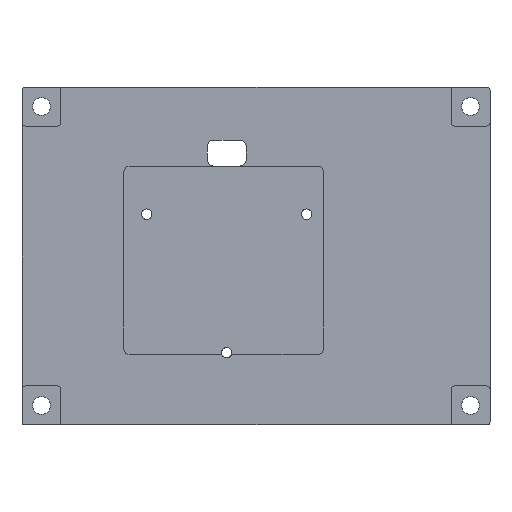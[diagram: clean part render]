
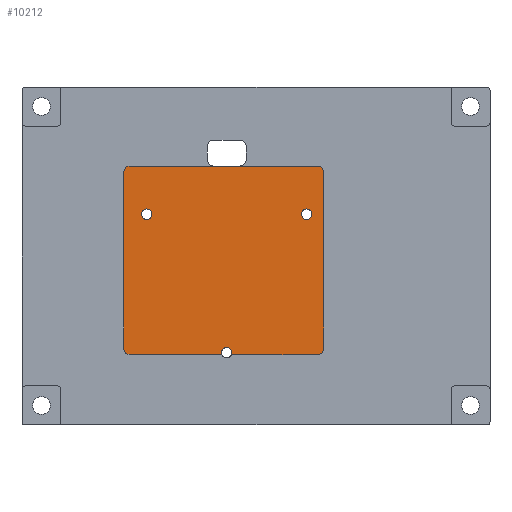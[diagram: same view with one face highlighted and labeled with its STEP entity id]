
A CAD part, front view. The second image highlights one B-rep face of the part: STEP entity #10212.
In plain terms, the highlighted planar face has unit normal (0, -1, 0).
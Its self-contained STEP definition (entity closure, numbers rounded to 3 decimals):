
#133 = VERTEX_POINT ( 'NONE', #232 ) ;
#141 = DIRECTION ( 'NONE',  ( 0., 0., -1. ) ) ;
#144 = VERTEX_POINT ( 'NONE', #2172 ) ;
#219 = AXIS2_PLACEMENT_3D ( 'NONE', #7039, #8697, #1610 ) ;
#232 = CARTESIAN_POINT ( 'NONE',  ( 19.187, -3.78, 33.237 ) ) ;
#256 = CARTESIAN_POINT ( 'NONE',  ( 32.226, -3.78, 10.837 ) ) ;
#543 = CARTESIAN_POINT ( 'NONE',  ( 15.64, -3.78, 38.837 ) ) ;
#563 = ORIENTED_EDGE ( 'NONE', *, *, #10979, .F. ) ;
#806 = CARTESIAN_POINT ( 'NONE',  ( 46.44, -3.78, 38.837 ) ) ;
#834 = EDGE_CURVE ( 'NONE', #7968, #6526, #9763, .T. ) ;
#847 = ORIENTED_EDGE ( 'NONE', *, *, #2154, .T. ) ;
#1095 = VERTEX_POINT ( 'NONE', #543 ) ;
#1115 = DIRECTION ( 'NONE',  ( 0., 0., -1. ) ) ;
#1176 = CARTESIAN_POINT ( 'NONE',  ( 31.484, -3.78, 11.937 ) ) ;
#1246 = ORIENTED_EDGE ( 'NONE', *, *, #8718, .T. ) ;
#1309 = DIRECTION ( 'NONE',  ( 0., -1., 0. ) ) ;
#1567 = VERTEX_POINT ( 'NONE', #7024 ) ;
#1570 = ORIENTED_EDGE ( 'NONE', *, *, #10094, .F. ) ;
#1610 = DIRECTION ( 'NONE',  ( 0., 0., -1. ) ) ;
#1663 = VECTOR ( 'NONE', #6040, 1000. ) ;
#1683 = AXIS2_PLACEMENT_3D ( 'NONE', #8513, #1309, #5804 ) ;
#1735 = DIRECTION ( 'NONE',  ( 1., 0., 0. ) ) ;
#1845 = ORIENTED_EDGE ( 'NONE', *, *, #5892, .F. ) ;
#2044 = CIRCLE ( 'NONE', #1683, 0.8 ) ;
#2154 = EDGE_CURVE ( 'NONE', #4724, #2204, #5270, .T. ) ;
#2172 = CARTESIAN_POINT ( 'NONE',  ( 46.44, -3.78, 11.837 ) ) ;
#2204 = VERTEX_POINT ( 'NONE', #11341 ) ;
#2331 = DIRECTION ( 'NONE',  ( 0., -1., 0. ) ) ;
#2370 = CARTESIAN_POINT ( 'NONE',  ( 45.44, -3.78, 11.837 ) ) ;
#2421 = ORIENTED_EDGE ( 'NONE', *, *, #8388, .F. ) ;
#2592 = CARTESIAN_POINT ( 'NONE',  ( 46.44, -3.78, 38.837 ) ) ;
#2735 = DIRECTION ( 'NONE',  ( 0., -1., 0. ) ) ;
#2750 = DIRECTION ( 'NONE',  ( 0., -1., 0. ) ) ;
#2849 = CARTESIAN_POINT ( 'NONE',  ( 16.64, -3.78, 39.837 ) ) ;
#2854 = VERTEX_POINT ( 'NONE', #2849 ) ;
#2933 = AXIS2_PLACEMENT_3D ( 'NONE', #5316, #2735, #4326 ) ;
#2972 = VERTEX_POINT ( 'NONE', #11435 ) ;
#2982 = AXIS2_PLACEMENT_3D ( 'NONE', #3689, #6667, #10015 ) ;
#3004 = LINE ( 'NONE', #6578, #7194 ) ;
#3184 = DIRECTION ( 'NONE',  ( 0., -1., 0. ) ) ;
#3331 = CARTESIAN_POINT ( 'NONE',  ( 43.782, -3.78, 33.237 ) ) ;
#3513 = DIRECTION ( 'NONE',  ( 0., 0., -1. ) ) ;
#3526 = EDGE_CURVE ( 'NONE', #1095, #6888, #8174, .T. ) ;
#3689 = CARTESIAN_POINT ( 'NONE',  ( 16.64, -3.78, 11.837 ) ) ;
#3909 = PLANE ( 'NONE',  #8490 ) ;
#4326 = DIRECTION ( 'NONE',  ( 0., 0., -1. ) ) ;
#4343 = VERTEX_POINT ( 'NONE', #8916 ) ;
#4477 = EDGE_CURVE ( 'NONE', #6834, #4343, #11017, .T. ) ;
#4724 = VERTEX_POINT ( 'NONE', #806 ) ;
#4725 = FACE_OUTER_BOUND ( 'NONE', #6797, .T. ) ;
#4847 = CARTESIAN_POINT ( 'NONE',  ( 43.782, -3.78, 32.437 ) ) ;
#4946 = DIRECTION ( 'NONE',  ( 0., 0., -1. ) ) ;
#5008 = EDGE_CURVE ( 'NONE', #2972, #1567, #6923, .T. ) ;
#5270 = CIRCLE ( 'NONE', #219, 1. ) ;
#5316 = CARTESIAN_POINT ( 'NONE',  ( 43.782, -3.78, 32.437 ) ) ;
#5371 = VECTOR ( 'NONE', #1735, 1000. ) ;
#5492 = ORIENTED_EDGE ( 'NONE', *, *, #4477, .F. ) ;
#5596 = AXIS2_PLACEMENT_3D ( 'NONE', #10426, #2331, #10365 ) ;
#5597 = ORIENTED_EDGE ( 'NONE', *, *, #10930, .T. ) ;
#5625 = VERTEX_POINT ( 'NONE', #1176 ) ;
#5717 = DIRECTION ( 'NONE',  ( 0., 0., -1. ) ) ;
#5759 = DIRECTION ( 'NONE',  ( -1., 0., 0. ) ) ;
#5804 = DIRECTION ( 'NONE',  ( 0., 0., -1. ) ) ;
#5892 = EDGE_CURVE ( 'NONE', #4343, #6834, #8007, .T. ) ;
#6040 = DIRECTION ( 'NONE',  ( 1., 0., 0. ) ) ;
#6228 = AXIS2_PLACEMENT_3D ( 'NONE', #8096, #2750, #6378 ) ;
#6365 = DIRECTION ( 'NONE',  ( 0., -1., 0. ) ) ;
#6378 = DIRECTION ( 'NONE',  ( 0., 0., -1. ) ) ;
#6526 = VERTEX_POINT ( 'NONE', #8876 ) ;
#6578 = CARTESIAN_POINT ( 'NONE',  ( 16.64, -3.78, 39.837 ) ) ;
#6667 = DIRECTION ( 'NONE',  ( 0., -1., 0. ) ) ;
#6760 = ORIENTED_EDGE ( 'NONE', *, *, #5008, .T. ) ;
#6778 = ORIENTED_EDGE ( 'NONE', *, *, #3526, .T. ) ;
#6797 = EDGE_LOOP ( 'NONE', ( #2421, #6965, #5597, #8371, #847, #11206, #11524, #6778, #1246, #6760, #563 ) ) ;
#6834 = VERTEX_POINT ( 'NONE', #3331 ) ;
#6880 = DIRECTION ( 'NONE',  ( 0., 0., -1. ) ) ;
#6888 = VERTEX_POINT ( 'NONE', #9517 ) ;
#6923 = LINE ( 'NONE', #10512, #1663 ) ;
#6965 = ORIENTED_EDGE ( 'NONE', *, *, #834, .T. ) ;
#6980 = AXIS2_PLACEMENT_3D ( 'NONE', #10672, #6365, #3513 ) ;
#7024 = CARTESIAN_POINT ( 'NONE',  ( 30.743, -3.78, 10.837 ) ) ;
#7039 = CARTESIAN_POINT ( 'NONE',  ( 45.44, -3.78, 38.837 ) ) ;
#7074 = CARTESIAN_POINT ( 'NONE',  ( 19.187, -3.78, 31.637 ) ) ;
#7194 = VECTOR ( 'NONE', #5759, 1000. ) ;
#7255 = VERTEX_POINT ( 'NONE', #7074 ) ;
#7485 = DIRECTION ( 'NONE',  ( 0., -1., 0. ) ) ;
#7537 = DIRECTION ( 'NONE',  ( 0., -1., 0. ) ) ;
#7611 = CIRCLE ( 'NONE', #11368, 1. ) ;
#7968 = VERTEX_POINT ( 'NONE', #256 ) ;
#8004 = EDGE_CURVE ( 'NONE', #2204, #2854, #3004, .T. ) ;
#8007 = CIRCLE ( 'NONE', #2933, 0.8 ) ;
#8096 = CARTESIAN_POINT ( 'NONE',  ( 16.64, -3.78, 38.837 ) ) ;
#8115 = CARTESIAN_POINT ( 'NONE',  ( 16.64, -3.78, 10.837 ) ) ;
#8174 = LINE ( 'NONE', #10757, #9522 ) ;
#8179 = AXIS2_PLACEMENT_3D ( 'NONE', #8543, #11295, #6880 ) ;
#8371 = ORIENTED_EDGE ( 'NONE', *, *, #11555, .T. ) ;
#8373 = CARTESIAN_POINT ( 'NONE',  ( 45.44, -3.78, 38.837 ) ) ;
#8388 = EDGE_CURVE ( 'NONE', #7968, #5625, #2044, .T. ) ;
#8432 = CIRCLE ( 'NONE', #2982, 1. ) ;
#8435 = FACE_BOUND ( 'NONE', #11363, .T. ) ;
#8490 = AXIS2_PLACEMENT_3D ( 'NONE', #8373, #7537, #5717 ) ;
#8513 = CARTESIAN_POINT ( 'NONE',  ( 31.484, -3.78, 11.137 ) ) ;
#8543 = CARTESIAN_POINT ( 'NONE',  ( 31.484, -3.78, 11.137 ) ) ;
#8697 = DIRECTION ( 'NONE',  ( 0., -1., 0. ) ) ;
#8718 = EDGE_CURVE ( 'NONE', #6888, #2972, #8432, .T. ) ;
#8813 = DIRECTION ( 'NONE',  ( 0., 0., 1. ) ) ;
#8876 = CARTESIAN_POINT ( 'NONE',  ( 45.44, -3.78, 10.837 ) ) ;
#8916 = CARTESIAN_POINT ( 'NONE',  ( 43.782, -3.78, 31.637 ) ) ;
#8918 = EDGE_CURVE ( 'NONE', #133, #7255, #10674, .T. ) ;
#9126 = VECTOR ( 'NONE', #8813, 1000. ) ;
#9248 = CIRCLE ( 'NONE', #6980, 0.8 ) ;
#9517 = CARTESIAN_POINT ( 'NONE',  ( 15.64, -3.78, 11.837 ) ) ;
#9522 = VECTOR ( 'NONE', #141, 1000. ) ;
#9694 = LINE ( 'NONE', #2592, #9126 ) ;
#9725 = EDGE_CURVE ( 'NONE', #2854, #1095, #10347, .T. ) ;
#9763 = LINE ( 'NONE', #8115, #5371 ) ;
#10015 = DIRECTION ( 'NONE',  ( 0., 0., -1. ) ) ;
#10043 = CIRCLE ( 'NONE', #8179, 0.8 ) ;
#10094 = EDGE_CURVE ( 'NONE', #7255, #133, #9248, .T. ) ;
#10212 = ADVANCED_FACE ( 'NONE', ( #4725, #8435, #10237 ), #3909, .T. ) ;
#10237 = FACE_BOUND ( 'NONE', #10805, .T. ) ;
#10347 = CIRCLE ( 'NONE', #6228, 1. ) ;
#10365 = DIRECTION ( 'NONE',  ( 0., 0., -1. ) ) ;
#10426 = CARTESIAN_POINT ( 'NONE',  ( 19.187, -3.78, 32.437 ) ) ;
#10512 = CARTESIAN_POINT ( 'NONE',  ( 16.64, -3.78, 10.837 ) ) ;
#10672 = CARTESIAN_POINT ( 'NONE',  ( 19.187, -3.78, 32.437 ) ) ;
#10674 = CIRCLE ( 'NONE', #5596, 0.8 ) ;
#10701 = ORIENTED_EDGE ( 'NONE', *, *, #8918, .F. ) ;
#10757 = CARTESIAN_POINT ( 'NONE',  ( 15.64, -3.78, 38.837 ) ) ;
#10805 = EDGE_LOOP ( 'NONE', ( #10701, #1570 ) ) ;
#10930 = EDGE_CURVE ( 'NONE', #6526, #144, #7611, .T. ) ;
#10979 = EDGE_CURVE ( 'NONE', #5625, #1567, #10043, .T. ) ;
#11017 = CIRCLE ( 'NONE', #11582, 0.8 ) ;
#11206 = ORIENTED_EDGE ( 'NONE', *, *, #8004, .T. ) ;
#11295 = DIRECTION ( 'NONE',  ( 0., -1., 0. ) ) ;
#11341 = CARTESIAN_POINT ( 'NONE',  ( 45.44, -3.78, 39.837 ) ) ;
#11363 = EDGE_LOOP ( 'NONE', ( #5492, #1845 ) ) ;
#11368 = AXIS2_PLACEMENT_3D ( 'NONE', #2370, #3184, #4946 ) ;
#11435 = CARTESIAN_POINT ( 'NONE',  ( 16.64, -3.78, 10.837 ) ) ;
#11524 = ORIENTED_EDGE ( 'NONE', *, *, #9725, .T. ) ;
#11555 = EDGE_CURVE ( 'NONE', #144, #4724, #9694, .T. ) ;
#11582 = AXIS2_PLACEMENT_3D ( 'NONE', #4847, #7485, #1115 ) ;
